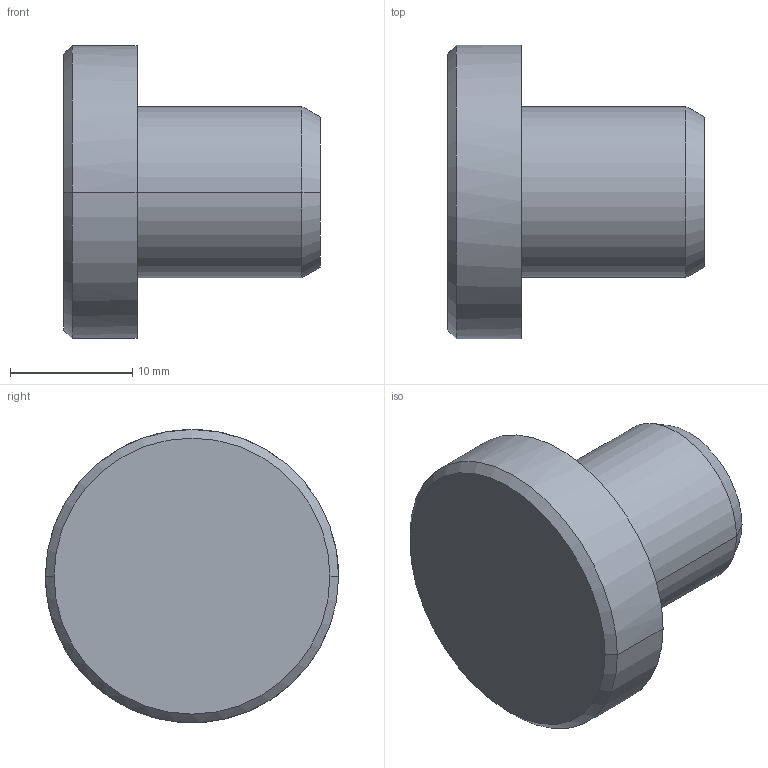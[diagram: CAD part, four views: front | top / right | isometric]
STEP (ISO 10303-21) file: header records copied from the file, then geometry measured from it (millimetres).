
FILE_DESCRIPTION(('CATIA V5 STEP Exchange'),'2;1');
FILE_NAME('C:\Users\Utente\Desktop\IO LAVORO\3D X SITO CF\X SITO\PLASTICA\382F\382F-24.stp','2021-03-10T19:04:38+00:00',('none'),('none'),'CATIA Version 5 Release 20 GA (IN-10)','CATIA V5 STEP AP203','none');
FILE_SCHEMA(('CONFIG_CONTROL_DESIGN'));
Length unit declared in the file: millimetre
Products named in the file (1): 382F-24
Bounding box: 21 x 24 x 23.98 mm (x, y, z)
Volume: 4977.5 mm3; surface area: 1954.8 mm2
Topology: 1 solids, 1 shells, 11 faces, 20 edges, 12 vertices
Faces by surface type: cone 4, cylinder 4, plane 3
Entity records: 358 total; most frequent: CARTESIAN_POINT 104, ORIENTED_EDGE 40, DIRECTION 39, AXIS2_PLACEMENT_3D 21, EDGE_CURVE 20, EDGE_LOOP 12, VERTEX_POINT 12, ADVANCED_FACE 11
